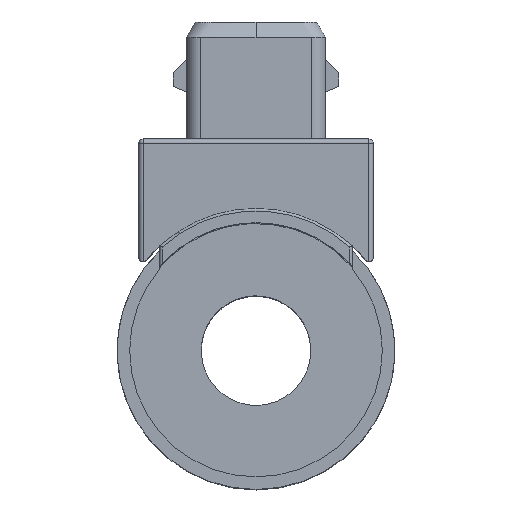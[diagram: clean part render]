
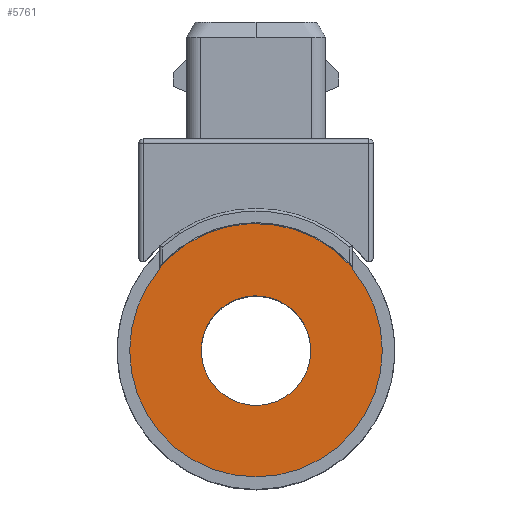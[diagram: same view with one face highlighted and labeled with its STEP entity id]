
A CAD part, top view. The second image highlights one B-rep face of the part: STEP entity #5761.
In plain terms, the highlighted planar face has unit normal (0, 0, 1).
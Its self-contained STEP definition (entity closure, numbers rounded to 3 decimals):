
#379 = PLANE ( 'NONE',  #687 ) ;
#524 = VERTEX_POINT ( 'NONE', #7875 ) ;
#562 = CIRCLE ( 'NONE', #6462, 15.2 ) ;
#687 = AXIS2_PLACEMENT_3D ( 'NONE', #2827, #705, #4397 ) ;
#705 = DIRECTION ( 'NONE',  ( 0., 0., 1. ) ) ;
#1027 = EDGE_LOOP ( 'NONE', ( #1330, #6792 ) ) ;
#1042 = CIRCLE ( 'NONE', #3211, 6.55 ) ;
#1248 = VERTEX_POINT ( 'NONE', #3428 ) ;
#1330 = ORIENTED_EDGE ( 'NONE', *, *, #4416, .F. ) ;
#1400 = DIRECTION ( 'NONE',  ( 0., 0., -1. ) ) ;
#1508 = CARTESIAN_POINT ( 'NONE',  ( 6.382, 1.472, -0.35 ) ) ;
#1589 = FACE_OUTER_BOUND ( 'NONE', #1027, .T. ) ;
#1834 = CARTESIAN_POINT ( 'NONE',  ( 0., 0., -0.35 ) ) ;
#1978 = CIRCLE ( 'NONE', #4028, 15.2 ) ;
#2328 = CARTESIAN_POINT ( 'NONE',  ( 0., 0., -0.35 ) ) ;
#2697 = VERTEX_POINT ( 'NONE', #7038 ) ;
#2741 = CARTESIAN_POINT ( 'NONE',  ( 0., 0., -0.35 ) ) ;
#2827 = CARTESIAN_POINT ( 'NONE',  ( 0., 0., -0.35 ) ) ;
#2902 = EDGE_CURVE ( 'NONE', #524, #5910, #1042, .T. ) ;
#3044 = DIRECTION ( 'NONE',  ( 0.974, 0.225, 0. ) ) ;
#3211 = AXIS2_PLACEMENT_3D ( 'NONE', #1834, #3798, #4286 ) ;
#3428 = CARTESIAN_POINT ( 'NONE',  ( -14.811, -3.416, -0.35 ) ) ;
#3493 = DIRECTION ( 'NONE',  ( 0., 0., 1. ) ) ;
#3798 = DIRECTION ( 'NONE',  ( 0., 0., 1. ) ) ;
#3845 = EDGE_CURVE ( 'NONE', #5910, #524, #5048, .T. ) ;
#4028 = AXIS2_PLACEMENT_3D ( 'NONE', #2741, #5839, #6976 ) ;
#4263 = AXIS2_PLACEMENT_3D ( 'NONE', #2328, #3493, #3044 ) ;
#4286 = DIRECTION ( 'NONE',  ( 0.974, 0.225, 0. ) ) ;
#4397 = DIRECTION ( 'NONE',  ( -1., 0., 0. ) ) ;
#4416 = EDGE_CURVE ( 'NONE', #2697, #1248, #1978, .T. ) ;
#4572 = ORIENTED_EDGE ( 'NONE', *, *, #2902, .F. ) ;
#5048 = CIRCLE ( 'NONE', #4263, 6.55 ) ;
#5057 = CARTESIAN_POINT ( 'NONE',  ( 0., 0., -0.35 ) ) ;
#5734 = DIRECTION ( 'NONE',  ( 0.974, 0.225, 0. ) ) ;
#5761 = ADVANCED_FACE ( 'NONE', ( #7097, #1589 ), #379, .T. ) ;
#5839 = DIRECTION ( 'NONE',  ( 0., 0., -1. ) ) ;
#5879 = EDGE_LOOP ( 'NONE', ( #6879, #4572 ) ) ;
#5910 = VERTEX_POINT ( 'NONE', #1508 ) ;
#6086 = EDGE_CURVE ( 'NONE', #1248, #2697, #562, .T. ) ;
#6462 = AXIS2_PLACEMENT_3D ( 'NONE', #5057, #1400, #5734 ) ;
#6792 = ORIENTED_EDGE ( 'NONE', *, *, #6086, .F. ) ;
#6879 = ORIENTED_EDGE ( 'NONE', *, *, #3845, .F. ) ;
#6976 = DIRECTION ( 'NONE',  ( 0.974, 0.225, 0. ) ) ;
#7038 = CARTESIAN_POINT ( 'NONE',  ( 14.811, 3.416, -0.35 ) ) ;
#7097 = FACE_BOUND ( 'NONE', #5879, .T. ) ;
#7875 = CARTESIAN_POINT ( 'NONE',  ( -6.382, -1.472, -0.35 ) ) ;
